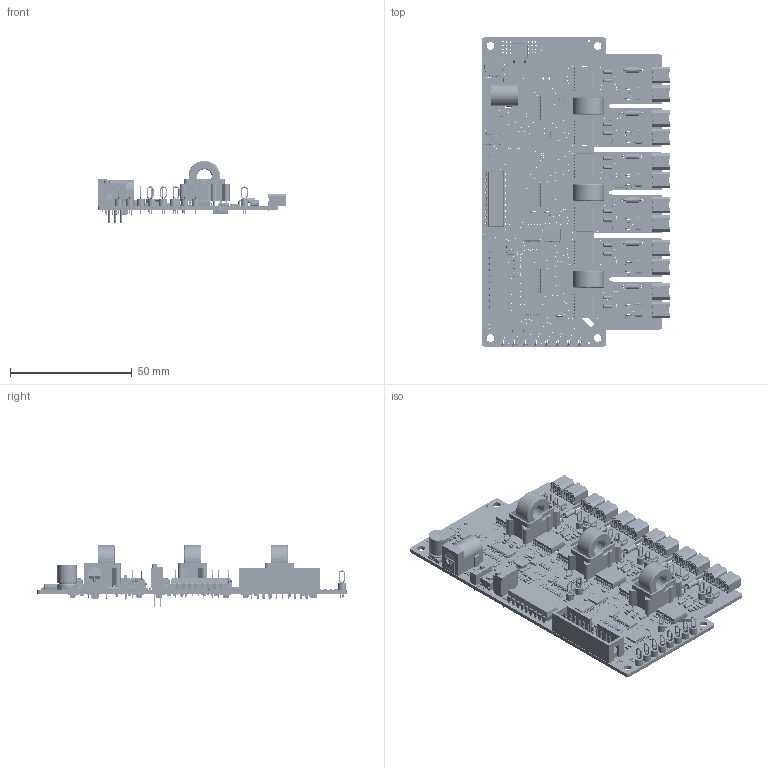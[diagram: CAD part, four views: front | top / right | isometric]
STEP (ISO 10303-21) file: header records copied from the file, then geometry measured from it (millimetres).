
FILE_DESCRIPTION(('for SolidWorks'),'2;1');
FILE_NAME('C:\Users\Taraz Tech1\Desktop\GDC-2A6S1.step', '2019-09-04T23:11:52',('Taraz Tech1'),(''), 'Open CASCADE STEP processor 6.6','DipTrace','Unknown');
FILE_SCHEMA(('AUTOMOTIVE_DESIGN { 1 0 10303 214 1 1 1 1 }'));
Length unit declared in the file: millimetre
Products named in the file (34): PCB_GDC-2A6S1; Board_GDC-2A6S1; CAP_1206; CAP_0603; CAP_8x10; LED_0603; DIO_SOD-123; DIO_SOD-323; SOT-490; SOT323; DIO_DO-214AA; DIO_DO-41; RES_0603; CONN_IDC_2x10; CONN_DC-Jack_RA_163-179PH-EX; CONN_TB_2x2.5; CONN_TB_Jack_2x2.5_1814841; IND_4.9x4.9x3.1; SW_PB_6x6x4.3; SOT23; RES_POT_67Y; RES_0204_MELF; DIP_SW1_418117270901; TP_MP-BLK; TP_MP-ORG; TP_MP-RED; TP_MP-GRY; TRANS_P0584NL; DIP-18; TSSOP-20; TO252-3; SOIC16_300; SOT89; SOIC16-150mil
Assembly tree (344 placements, depth 2):
  PCB_GDC-2A6S1
    Board_GDC-2A6S1
    CAP_1206  x25
    CAP_0603  x54
    CAP_8x10
    LED_0603  x21
    DIO_SOD-123  x4
    DIO_SOD-323  x7
    SOT-490  x8
    SOT323  x6
    DIO_DO-214AA  x6
    DIO_DO-41  x6
    RES_0603  x119
    CONN_IDC_2x10
    CONN_DC-Jack_RA_163-179PH-EX
    CONN_TB_2x2.5
    CONN_TB_Jack_2x2.5_1814841  x12
    IND_4.9x4.9x3.1
    SW_PB_6x6x4.3
    SOT23  x9
    RES_POT_67Y
    RES_0204_MELF  x12
    DIP_SW1_418117270901
    TP_MP-BLK
    TP_MP-ORG  x14
    TP_MP-RED  x2
    TP_MP-GRY  x6
    TRANS_P0584NL  x3
    DIP-18
    TSSOP-20  x3
    TO252-3
    SOIC16_300  x6
    SOT89  x6
    SOIC16-150mil  x3
Bounding box: 77.25 x 127 x 25.64 mm (x, y, z)
Volume: 20599.3 mm3; surface area: 46633 mm2
Topology: 156 solids, 964 shells, 28923 faces, 72925 edges, 46610 vertices
Faces by surface type: plane 16227, bspline 7489, cylinder 4235, sphere 632, torus 206, cone 122, revolution 10, extrusion 2
Full cylindrical faces by diameter (mm): 0.4 x429, 0.6 x24, 0.8 x5, 0.9 x38, 0.95 x12, 1 x46, 1.05 x2, 3.2 x4
Entity records: 177751 total; most frequent: CARTESIAN_POINT 36849, ORIENTED_EDGE 23926, DIRECTION 23299, EDGE_CURVE 11987, VECTOR 8745, LINE 8743, VERTEX_POINT 7774, AXIS2_PLACEMENT_3D 7272
